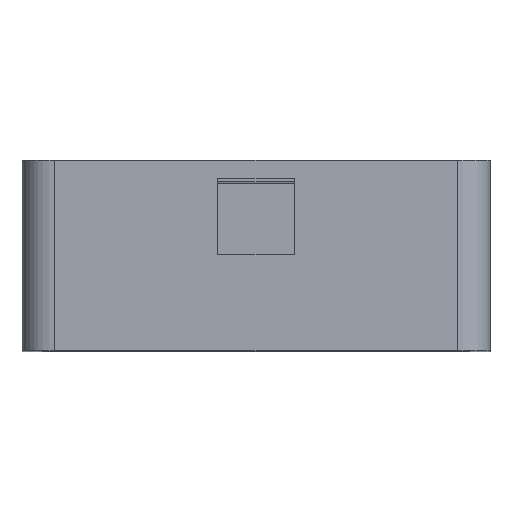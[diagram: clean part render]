
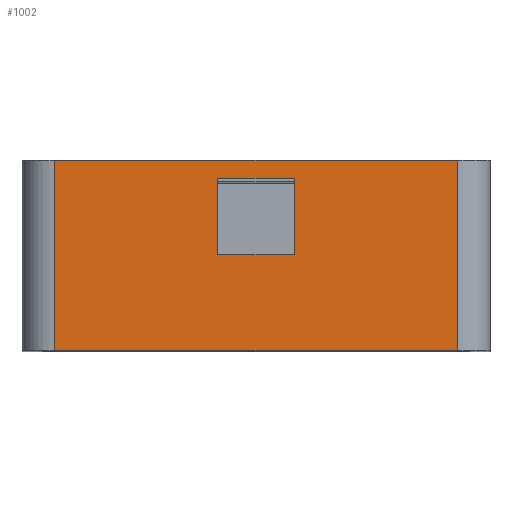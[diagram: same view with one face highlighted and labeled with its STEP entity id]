
A CAD part, top view. The second image highlights one B-rep face of the part: STEP entity #1002.
In plain terms, the highlighted planar face has unit normal (0, 0, 1).
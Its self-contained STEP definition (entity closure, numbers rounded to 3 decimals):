
#44 = PLANE('',#45);
#45 = AXIS2_PLACEMENT_3D('',#46,#47,#48);
#46 = CARTESIAN_POINT('',(-18.,-4.5,-36.));
#47 = DIRECTION('',(0.,1.,0.));
#48 = DIRECTION('',(0.,0.,1.));
#100 = PLANE('',#101);
#101 = AXIS2_PLACEMENT_3D('',#102,#103,#104);
#102 = CARTESIAN_POINT('',(-18.,13.,-36.));
#103 = DIRECTION('',(0.,1.,0.));
#104 = DIRECTION('',(0.,0.,1.));
#126 = CYLINDRICAL_SURFACE('',#127,3.);
#127 = AXIS2_PLACEMENT_3D('',#128,#129,#130);
#128 = CARTESIAN_POINT('',(-15.,-4.5,33.));
#129 = DIRECTION('',(0.,1.,0.));
#130 = DIRECTION('',(-1.,0.,0.));
#199 = VERTEX_POINT('',#200);
#200 = CARTESIAN_POINT('',(-15.,-4.5,36.));
#222 = EDGE_CURVE('',#199,#223,#225,.T.);
#223 = VERTEX_POINT('',#224);
#224 = CARTESIAN_POINT('',(22.,-4.5,36.));
#225 = SURFACE_CURVE('',#226,(#230,#237),.PCURVE_S1.);
#226 = LINE('',#227,#228);
#227 = CARTESIAN_POINT('',(-18.,-4.5,36.));
#228 = VECTOR('',#229,1.);
#229 = DIRECTION('',(1.,0.,0.));
#230 = PCURVE('',#44,#231);
#231 = DEFINITIONAL_REPRESENTATION('',(#232),#236);
#232 = LINE('',#233,#234);
#233 = CARTESIAN_POINT('',(72.,0.));
#234 = VECTOR('',#235,1.);
#235 = DIRECTION('',(0.,1.));
#236 = ( GEOMETRIC_REPRESENTATION_CONTEXT(2) 
PARAMETRIC_REPRESENTATION_CONTEXT() REPRESENTATION_CONTEXT('2D SPACE',''
  ) );
#237 = PCURVE('',#238,#243);
#238 = PLANE('',#239);
#239 = AXIS2_PLACEMENT_3D('',#240,#241,#242);
#240 = CARTESIAN_POINT('',(-18.,-4.5,36.));
#241 = DIRECTION('',(0.,0.,1.));
#242 = DIRECTION('',(1.,0.,0.));
#243 = DEFINITIONAL_REPRESENTATION('',(#244),#248);
#244 = LINE('',#245,#246);
#245 = CARTESIAN_POINT('',(0.,0.));
#246 = VECTOR('',#247,1.);
#247 = DIRECTION('',(1.,0.));
#248 = ( GEOMETRIC_REPRESENTATION_CONTEXT(2) 
PARAMETRIC_REPRESENTATION_CONTEXT() REPRESENTATION_CONTEXT('2D SPACE',''
  ) );
#271 = CYLINDRICAL_SURFACE('',#272,3.);
#272 = AXIS2_PLACEMENT_3D('',#273,#274,#275);
#273 = CARTESIAN_POINT('',(22.,-4.5,33.));
#274 = DIRECTION('',(0.,1.,0.));
#275 = DIRECTION('',(1.,0.,-0.));
#618 = EDGE_CURVE('',#199,#619,#621,.T.);
#619 = VERTEX_POINT('',#620);
#620 = CARTESIAN_POINT('',(-15.,13.,36.));
#621 = SURFACE_CURVE('',#622,(#626,#633),.PCURVE_S1.);
#622 = LINE('',#623,#624);
#623 = CARTESIAN_POINT('',(-15.,-4.5,36.));
#624 = VECTOR('',#625,1.);
#625 = DIRECTION('',(0.,1.,0.));
#626 = PCURVE('',#126,#627);
#627 = DEFINITIONAL_REPRESENTATION('',(#628),#632);
#628 = LINE('',#629,#630);
#629 = CARTESIAN_POINT('',(1.571,0.));
#630 = VECTOR('',#631,1.);
#631 = DIRECTION('',(0.,1.));
#632 = ( GEOMETRIC_REPRESENTATION_CONTEXT(2) 
PARAMETRIC_REPRESENTATION_CONTEXT() REPRESENTATION_CONTEXT('2D SPACE',''
  ) );
#633 = PCURVE('',#238,#634);
#634 = DEFINITIONAL_REPRESENTATION('',(#635),#639);
#635 = LINE('',#636,#637);
#636 = CARTESIAN_POINT('',(3.,0.));
#637 = VECTOR('',#638,1.);
#638 = DIRECTION('',(0.,1.));
#639 = ( GEOMETRIC_REPRESENTATION_CONTEXT(2) 
PARAMETRIC_REPRESENTATION_CONTEXT() REPRESENTATION_CONTEXT('2D SPACE',''
  ) );
#693 = EDGE_CURVE('',#619,#694,#696,.T.);
#694 = VERTEX_POINT('',#695);
#695 = CARTESIAN_POINT('',(22.,13.,36.));
#696 = SURFACE_CURVE('',#697,(#701,#708),.PCURVE_S1.);
#697 = LINE('',#698,#699);
#698 = CARTESIAN_POINT('',(-18.,13.,36.));
#699 = VECTOR('',#700,1.);
#700 = DIRECTION('',(1.,0.,0.));
#701 = PCURVE('',#100,#702);
#702 = DEFINITIONAL_REPRESENTATION('',(#703),#707);
#703 = LINE('',#704,#705);
#704 = CARTESIAN_POINT('',(72.,0.));
#705 = VECTOR('',#706,1.);
#706 = DIRECTION('',(0.,1.));
#707 = ( GEOMETRIC_REPRESENTATION_CONTEXT(2) 
PARAMETRIC_REPRESENTATION_CONTEXT() REPRESENTATION_CONTEXT('2D SPACE',''
  ) );
#708 = PCURVE('',#238,#709);
#709 = DEFINITIONAL_REPRESENTATION('',(#710),#714);
#710 = LINE('',#711,#712);
#711 = CARTESIAN_POINT('',(0.,17.5));
#712 = VECTOR('',#713,1.);
#713 = DIRECTION('',(1.,0.));
#714 = ( GEOMETRIC_REPRESENTATION_CONTEXT(2) 
PARAMETRIC_REPRESENTATION_CONTEXT() REPRESENTATION_CONTEXT('2D SPACE',''
  ) );
#980 = EDGE_CURVE('',#223,#694,#981,.T.);
#981 = SURFACE_CURVE('',#982,(#986,#993),.PCURVE_S1.);
#982 = LINE('',#983,#984);
#983 = CARTESIAN_POINT('',(22.,-4.5,36.));
#984 = VECTOR('',#985,1.);
#985 = DIRECTION('',(0.,1.,0.));
#986 = PCURVE('',#271,#987);
#987 = DEFINITIONAL_REPRESENTATION('',(#988),#992);
#988 = LINE('',#989,#990);
#989 = CARTESIAN_POINT('',(-1.571,0.));
#990 = VECTOR('',#991,1.);
#991 = DIRECTION('',(-0.,1.));
#992 = ( GEOMETRIC_REPRESENTATION_CONTEXT(2) 
PARAMETRIC_REPRESENTATION_CONTEXT() REPRESENTATION_CONTEXT('2D SPACE',''
  ) );
#993 = PCURVE('',#238,#994);
#994 = DEFINITIONAL_REPRESENTATION('',(#995),#999);
#995 = LINE('',#996,#997);
#996 = CARTESIAN_POINT('',(40.,0.));
#997 = VECTOR('',#998,1.);
#998 = DIRECTION('',(0.,1.));
#999 = ( GEOMETRIC_REPRESENTATION_CONTEXT(2) 
PARAMETRIC_REPRESENTATION_CONTEXT() REPRESENTATION_CONTEXT('2D SPACE',''
  ) );
#1002 = ADVANCED_FACE('',(#1003,#1009),#238,.T.);
#1003 = FACE_BOUND('',#1004,.T.);
#1004 = EDGE_LOOP('',(#1005,#1006,#1007,#1008));
#1005 = ORIENTED_EDGE('',*,*,#693,.F.);
#1006 = ORIENTED_EDGE('',*,*,#618,.F.);
#1007 = ORIENTED_EDGE('',*,*,#222,.T.);
#1008 = ORIENTED_EDGE('',*,*,#980,.T.);
#1009 = FACE_BOUND('',#1010,.T.);
#1010 = EDGE_LOOP('',(#1011,#1039,#1065,#1091));
#1011 = ORIENTED_EDGE('',*,*,#1012,.T.);
#1012 = EDGE_CURVE('',#1013,#1015,#1017,.T.);
#1013 = VERTEX_POINT('',#1014);
#1014 = CARTESIAN_POINT('',(7.,4.3,36.));
#1015 = VERTEX_POINT('',#1016);
#1016 = CARTESIAN_POINT('',(0.,4.3,36.));
#1017 = SURFACE_CURVE('',#1018,(#1022,#1028),.PCURVE_S1.);
#1018 = LINE('',#1019,#1020);
#1019 = CARTESIAN_POINT('',(-9.,4.3,36.));
#1020 = VECTOR('',#1021,1.);
#1021 = DIRECTION('',(-1.,0.,0.));
#1022 = PCURVE('',#238,#1023);
#1023 = DEFINITIONAL_REPRESENTATION('',(#1024),#1027);
#1024 = B_SPLINE_CURVE_WITH_KNOTS('',1,(#1025,#1026),.UNSPECIFIED.,.F.,
  .F.,(2,2),(-16.,-9.),.PIECEWISE_BEZIER_KNOTS.);
#1025 = CARTESIAN_POINT('',(25.,8.8));
#1026 = CARTESIAN_POINT('',(18.,8.8));
#1027 = ( GEOMETRIC_REPRESENTATION_CONTEXT(2) 
PARAMETRIC_REPRESENTATION_CONTEXT() REPRESENTATION_CONTEXT('2D SPACE',''
  ) );
#1028 = PCURVE('',#1029,#1034);
#1029 = PLANE('',#1030);
#1030 = AXIS2_PLACEMENT_3D('',#1031,#1032,#1033);
#1031 = CARTESIAN_POINT('',(0.,4.3,32.5));
#1032 = DIRECTION('',(0.,1.,0.));
#1033 = DIRECTION('',(0.,0.,1.));
#1034 = DEFINITIONAL_REPRESENTATION('',(#1035),#1038);
#1035 = B_SPLINE_CURVE_WITH_KNOTS('',1,(#1036,#1037),.UNSPECIFIED.,.F.,
  .F.,(2,2),(-16.,-9.),.PIECEWISE_BEZIER_KNOTS.);
#1036 = CARTESIAN_POINT('',(3.5,7.));
#1037 = CARTESIAN_POINT('',(3.5,0.));
#1038 = ( GEOMETRIC_REPRESENTATION_CONTEXT(2) 
PARAMETRIC_REPRESENTATION_CONTEXT() REPRESENTATION_CONTEXT('2D SPACE',''
  ) );
#1039 = ORIENTED_EDGE('',*,*,#1040,.T.);
#1040 = EDGE_CURVE('',#1015,#1041,#1043,.T.);
#1041 = VERTEX_POINT('',#1042);
#1042 = CARTESIAN_POINT('',(0.,11.3,36.));
#1043 = SURFACE_CURVE('',#1044,(#1048,#1054),.PCURVE_S1.);
#1044 = LINE('',#1045,#1046);
#1045 = CARTESIAN_POINT('',(0.,-0.1,36.));
#1046 = VECTOR('',#1047,1.);
#1047 = DIRECTION('',(0.,1.,0.));
#1048 = PCURVE('',#238,#1049);
#1049 = DEFINITIONAL_REPRESENTATION('',(#1050),#1053);
#1050 = B_SPLINE_CURVE_WITH_KNOTS('',1,(#1051,#1052),.UNSPECIFIED.,.F.,
  .F.,(2,2),(4.4,11.4),.PIECEWISE_BEZIER_KNOTS.);
#1051 = CARTESIAN_POINT('',(18.,8.8));
#1052 = CARTESIAN_POINT('',(18.,15.8));
#1053 = ( GEOMETRIC_REPRESENTATION_CONTEXT(2) 
PARAMETRIC_REPRESENTATION_CONTEXT() REPRESENTATION_CONTEXT('2D SPACE',''
  ) );
#1054 = PCURVE('',#1055,#1060);
#1055 = PLANE('',#1056);
#1056 = AXIS2_PLACEMENT_3D('',#1057,#1058,#1059);
#1057 = CARTESIAN_POINT('',(0.,4.3,32.5));
#1058 = DIRECTION('',(1.,0.,0.));
#1059 = DIRECTION('',(0.,0.,1.));
#1060 = DEFINITIONAL_REPRESENTATION('',(#1061),#1064);
#1061 = B_SPLINE_CURVE_WITH_KNOTS('',1,(#1062,#1063),.UNSPECIFIED.,.F.,
  .F.,(2,2),(4.4,11.4),.PIECEWISE_BEZIER_KNOTS.);
#1062 = CARTESIAN_POINT('',(3.5,0.));
#1063 = CARTESIAN_POINT('',(3.5,-7.));
#1064 = ( GEOMETRIC_REPRESENTATION_CONTEXT(2) 
PARAMETRIC_REPRESENTATION_CONTEXT() REPRESENTATION_CONTEXT('2D SPACE',''
  ) );
#1065 = ORIENTED_EDGE('',*,*,#1066,.F.);
#1066 = EDGE_CURVE('',#1067,#1041,#1069,.T.);
#1067 = VERTEX_POINT('',#1068);
#1068 = CARTESIAN_POINT('',(7.,11.3,36.));
#1069 = SURFACE_CURVE('',#1070,(#1074,#1080),.PCURVE_S1.);
#1070 = LINE('',#1071,#1072);
#1071 = CARTESIAN_POINT('',(-9.,11.3,36.));
#1072 = VECTOR('',#1073,1.);
#1073 = DIRECTION('',(-1.,0.,0.));
#1074 = PCURVE('',#238,#1075);
#1075 = DEFINITIONAL_REPRESENTATION('',(#1076),#1079);
#1076 = B_SPLINE_CURVE_WITH_KNOTS('',1,(#1077,#1078),.UNSPECIFIED.,.F.,
  .F.,(2,2),(-16.,-9.),.PIECEWISE_BEZIER_KNOTS.);
#1077 = CARTESIAN_POINT('',(25.,15.8));
#1078 = CARTESIAN_POINT('',(18.,15.8));
#1079 = ( GEOMETRIC_REPRESENTATION_CONTEXT(2) 
PARAMETRIC_REPRESENTATION_CONTEXT() REPRESENTATION_CONTEXT('2D SPACE',''
  ) );
#1080 = PCURVE('',#1081,#1086);
#1081 = PLANE('',#1082);
#1082 = AXIS2_PLACEMENT_3D('',#1083,#1084,#1085);
#1083 = CARTESIAN_POINT('',(0.,11.3,32.5));
#1084 = DIRECTION('',(0.,1.,0.));
#1085 = DIRECTION('',(0.,0.,1.));
#1086 = DEFINITIONAL_REPRESENTATION('',(#1087),#1090);
#1087 = B_SPLINE_CURVE_WITH_KNOTS('',1,(#1088,#1089),.UNSPECIFIED.,.F.,
  .F.,(2,2),(-16.,-9.),.PIECEWISE_BEZIER_KNOTS.);
#1088 = CARTESIAN_POINT('',(3.5,7.));
#1089 = CARTESIAN_POINT('',(3.5,0.));
#1090 = ( GEOMETRIC_REPRESENTATION_CONTEXT(2) 
PARAMETRIC_REPRESENTATION_CONTEXT() REPRESENTATION_CONTEXT('2D SPACE',''
  ) );
#1091 = ORIENTED_EDGE('',*,*,#1092,.F.);
#1092 = EDGE_CURVE('',#1013,#1067,#1093,.T.);
#1093 = SURFACE_CURVE('',#1094,(#1098,#1104),.PCURVE_S1.);
#1094 = LINE('',#1095,#1096);
#1095 = CARTESIAN_POINT('',(7.,-0.1,36.));
#1096 = VECTOR('',#1097,1.);
#1097 = DIRECTION('',(0.,1.,0.));
#1098 = PCURVE('',#238,#1099);
#1099 = DEFINITIONAL_REPRESENTATION('',(#1100),#1103);
#1100 = B_SPLINE_CURVE_WITH_KNOTS('',1,(#1101,#1102),.UNSPECIFIED.,.F.,
  .F.,(2,2),(4.4,11.4),.PIECEWISE_BEZIER_KNOTS.);
#1101 = CARTESIAN_POINT('',(25.,8.8));
#1102 = CARTESIAN_POINT('',(25.,15.8));
#1103 = ( GEOMETRIC_REPRESENTATION_CONTEXT(2) 
PARAMETRIC_REPRESENTATION_CONTEXT() REPRESENTATION_CONTEXT('2D SPACE',''
  ) );
#1104 = PCURVE('',#1105,#1110);
#1105 = PLANE('',#1106);
#1106 = AXIS2_PLACEMENT_3D('',#1107,#1108,#1109);
#1107 = CARTESIAN_POINT('',(7.,4.3,32.5));
#1108 = DIRECTION('',(1.,0.,0.));
#1109 = DIRECTION('',(0.,0.,1.));
#1110 = DEFINITIONAL_REPRESENTATION('',(#1111),#1114);
#1111 = B_SPLINE_CURVE_WITH_KNOTS('',1,(#1112,#1113),.UNSPECIFIED.,.F.,
  .F.,(2,2),(4.4,11.4),.PIECEWISE_BEZIER_KNOTS.);
#1112 = CARTESIAN_POINT('',(3.5,0.));
#1113 = CARTESIAN_POINT('',(3.5,-7.));
#1114 = ( GEOMETRIC_REPRESENTATION_CONTEXT(2) 
PARAMETRIC_REPRESENTATION_CONTEXT() REPRESENTATION_CONTEXT('2D SPACE',''
  ) );
